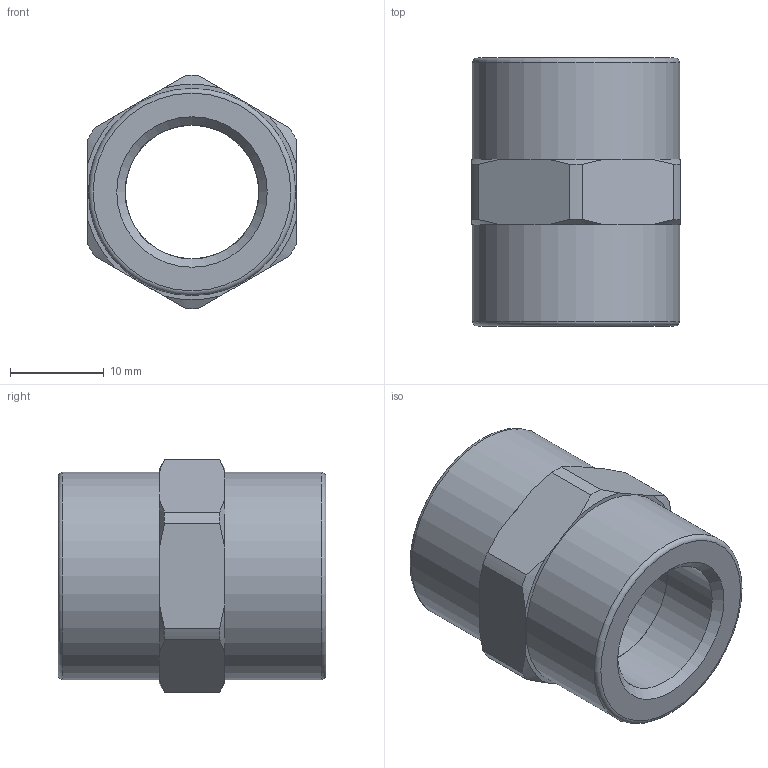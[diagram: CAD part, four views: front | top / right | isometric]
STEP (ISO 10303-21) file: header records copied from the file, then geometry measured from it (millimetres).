
FILE_DESCRIPTION(/* description */ (''),/* implementation_level */ '2;1');
FILE_NAME(/* name */ 'C:/Users/drich/Desktop/C-38 v1.step',/* time_stamp */ '2020-02-09T10:56:13-06:00',/* author */ (''),/* organization */ (''),/* preprocessor_version */ 'ST-DEVELOPER v18',/* originating_system */ 'Autodesk Translation Framework v8.12.0.6',/* authorisation */ '');
FILE_SCHEMA (('AUTOMOTIVE_DESIGN { 1 0 10303 214 3 1 1 }'));
Length unit declared in the file: inch
Products named in the file (1): C-38
Bounding box: 22.23 x 28.57 x 24.89 mm (x, y, z)
Volume: 6646 mm3; surface area: 3747.2 mm2
Topology: 1 solids, 1 shells, 39 faces, 107 edges, 74 vertices
Faces by surface type: cone 14, plane 12, cylinder 11, torus 2
Full cylindrical faces by diameter (mm): 14.224 x1, 14.275 x2, 22.098 x2
Entity records: 1299 total; most frequent: CARTESIAN_POINT 269, DIRECTION 215, ORIENTED_EDGE 214, EDGE_CURVE 107, AXIS2_PLACEMENT_3D 92, VERTEX_POINT 74, CIRCLE 52, EDGE_LOOP 45
